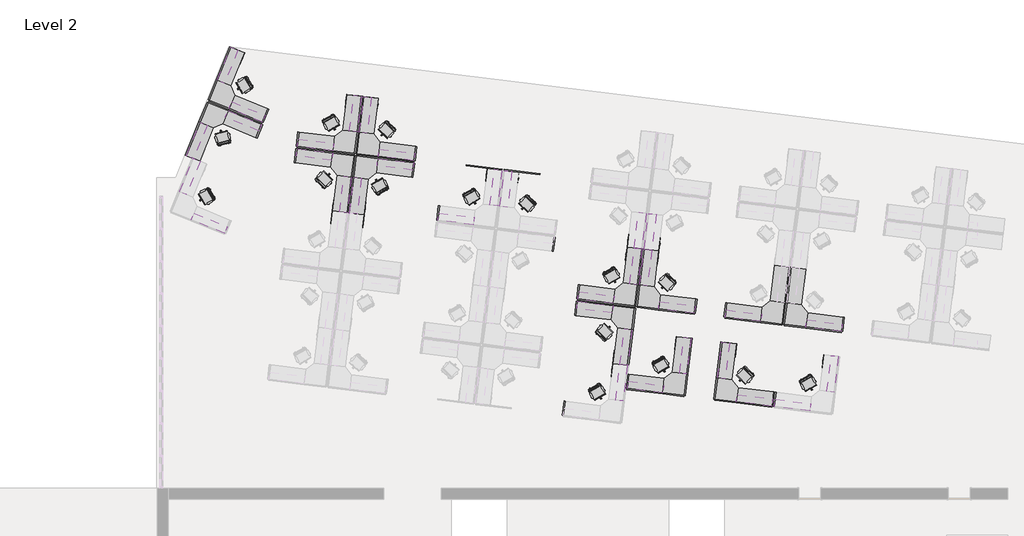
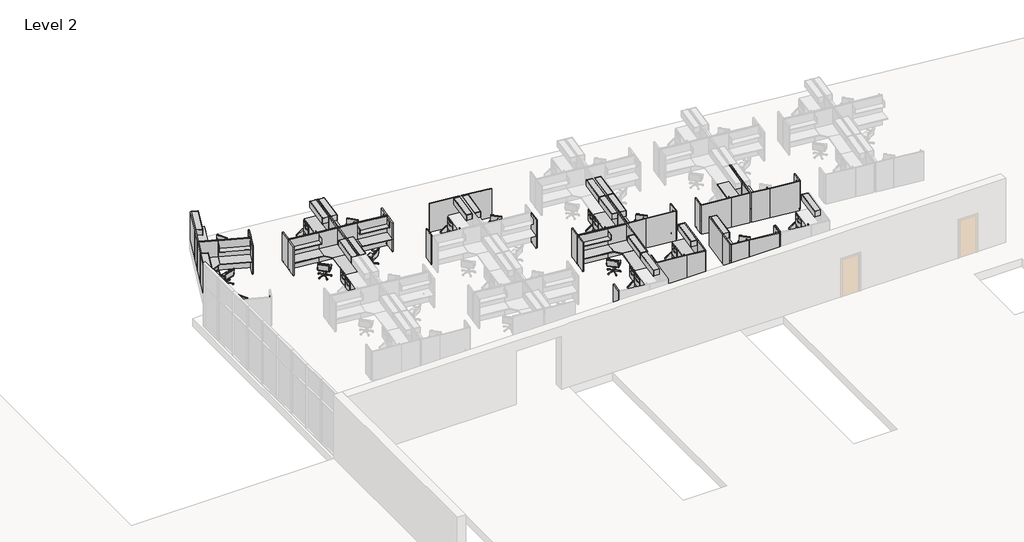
# One storey, part 6 of 7: 100 furniture elements.
"""IFC4 building model written with IfcOpenShell, lengths in millimetres."""

from ifc_helpers import new_model, si_unit, origin, place, context, project, spatial, transform, mapped, element, save
from components import chair_task_arms_chair_task_arms_3b363349, chair_task_arms_chair_task_arms_8395c10b, furniture_665347ce, furniture_3ceed070, furniture_00cef8f1, furniture_8d825890, overhead_shelving_module_overhead_shelving_module_3ee17988, overhead_shelving_module_overhead_shelving_module_7dcda1b9, overhead_storage_module_overhead_storage_module_326dc690, overhead_storage_module_overhead_storage_module_bea9f75f, furniture_0333d240, furniture_4718bb14, furniture_45e3acac, furniture_7b33082a

model = new_model("IFC4")

# Units and contexts
model_context = context("Model", 3, world=origin())
ifc_project = project(units=[si_unit("LENGTHUNIT", "METRE", prefix="MILLI")], contexts=[model_context])

# Site, building, storey
site = spatial("IfcSite", under=ifc_project)
building = spatial("IfcBuilding", under=site)
storey = spatial("IfcBuildingStorey", under=building, Name="Level 2", Elevation=3657.6)

# Furniture
placement = place(None, origin())
chair_task_arms_chair_task_arms_shape = chair_task_arms_chair_task_arms_3b363349(model_context)
element("IfcFurniture", 1, ObjectType="Chair-Task Arms : Chair-Task Arms", at=placement, inside=storey, context=model_context, shape_type="MappedRepresentation", body=[
    mapped(chair_task_arms_chair_task_arms_shape, transform((-23352.4193491, 11903.0432182, 3657.6), x_axis=(-0.7193398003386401, 0.6946583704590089, 0.0), y_axis=(-0.6946583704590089, -0.7193398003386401, 0.0), z_axis=(0.0, 0.0, 1.0))),
])
element("IfcFurniture", 2, ObjectType="Chair-Task Arms : Chair-Task Arms", at=placement, inside=storey, context=model_context, shape_type="MappedRepresentation", body=[
    mapped(chair_task_arms_chair_task_arms_shape, transform((-17391.147875, 8765.5606586, 3657.6), x_axis=(-0.7193398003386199, 0.6946583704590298, 0.0), y_axis=(-0.6946583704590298, -0.7193398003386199, 0.0), z_axis=(0.0, 0.0, 1.0))),
])
element("IfcFurniture", 3, ObjectType="Chair-Task Arms : Chair-Task Arms", at=placement, inside=storey, context=model_context, shape_type="MappedRepresentation", body=[
    mapped(chair_task_arms_chair_task_arms_shape, transform((-14358.0359457, 3469.8400502, 3657.6), x_axis=(0.7193398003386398, -0.6946583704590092, 0.0), y_axis=(0.6946583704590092, 0.7193398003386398, 0.0), z_axis=(0.0, 0.0, 1.0))),
])
element("IfcFurniture", 4, ObjectType="Chair-Task Arms : Chair-Task Arms", at=placement, inside=storey, context=model_context, shape_type="MappedRepresentation", body=[
    mapped(chair_task_arms_chair_task_arms_shape, transform((-11454.6402515, 5426.3927209, 3657.6), x_axis=(-0.7193398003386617, 0.6946583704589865, 0.0), y_axis=(-0.6946583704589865, -0.7193398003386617, 0.0), z_axis=(0.0, 0.0, 1.0))),
])
element("IfcFurniture", 5, ObjectType="Chair-Task Arms : Chair-Task Arms", at=placement, inside=storey, context=model_context, shape_type="MappedRepresentation", body=[
    mapped(chair_task_arms_chair_task_arms_shape, transform((-26255.8150433, 9946.4905474, 3657.6), x_axis=(0.7193398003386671, -0.6946583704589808, 0.0), y_axis=(0.6946583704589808, 0.7193398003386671, 0.0), z_axis=(0.0, 0.0, 1.0))),
])
element("IfcFurniture", 6, ObjectType="Chair-Task Arms : Chair-Task Arms", at=placement, inside=storey, context=model_context, shape_type="MappedRepresentation", body=[
    mapped(chair_task_arms_chair_task_arms_shape, transform((-29421.3744907, 13765.940724, 3657.6), x_axis=(-0.5113844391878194, 0.8593520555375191, 0.0), y_axis=(-0.8593520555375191, -0.5113844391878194, 0.0), z_axis=(0.0, 0.0, 1.0))),
])
element("IfcFurniture", 7, ObjectType="Chair-Task Arms : Chair-Task Arms", at=placement, inside=storey, context=model_context, shape_type="MappedRepresentation", body=[
    mapped(chair_task_arms_chair_task_arms_shape, transform((-31023.8319386, 9042.6474103, 3657.6), x_axis=(-0.5113844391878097, 0.8593520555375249, 0.0), y_axis=(-0.8593520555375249, -0.5113844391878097, 0.0), z_axis=(0.0, 0.0, 1.0))),
])
element("IfcFurniture", 8, ObjectType="Chair-Task Arms : Chair-Task Arms", at=placement, inside=storey, context=model_context, shape_type="MappedRepresentation", body=[
    mapped(chair_task_arms_chair_task_arms_shape, transform((-8151.4574, 1482.5085649, 3657.6), x_axis=(-0.7193398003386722, 0.6946583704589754, 0.0), y_axis=(-0.6946583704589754, -0.7193398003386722, 0.0), z_axis=(0.0, 0.0, 1.0))),
])
chair_task_arms_chair_task_arms_2_shape = chair_task_arms_chair_task_arms_8395c10b(model_context)
element("IfcFurniture", 9, ObjectType="Chair-Task Arms : Chair-Task Arms", at=placement, inside=storey, context=model_context, shape_type="MappedRepresentation", body=[
    mapped(chair_task_arms_chair_task_arms_2_shape, transform((-20014.7554735, 9087.6991655, 3657.6), x_axis=(0.866025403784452, 0.4999999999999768, 0.0), y_axis=(-0.4999999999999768, 0.866025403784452, 0.0), z_axis=(0.0, 0.0, 1.0))),
])
element("IfcFurniture", 10, ObjectType="Chair-Task Arms : Chair-Task Arms", at=placement, inside=storey, context=model_context, shape_type="MappedRepresentation", body=[
    mapped(chair_task_arms_chair_task_arms_2_shape, transform((-23632.2074448, 9624.3520405, 3657.6), x_axis=(-0.8660254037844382, -0.5000000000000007, 0.0), y_axis=(0.5000000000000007, -0.8660254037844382, 0.0), z_axis=(0.0, 0.0, 1.0))),
])
element("IfcFurniture", 11, ObjectType="Chair-Task Arms : Chair-Task Arms", at=placement, inside=storey, context=model_context, shape_type="MappedRepresentation", body=[
    mapped(chair_task_arms_chair_task_arms_2_shape, transform((-14078.24785, 5748.5312279, 3657.6), x_axis=(0.8660254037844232, 0.5000000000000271, 0.0), y_axis=(-0.5000000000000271, 0.8660254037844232, 0.0), z_axis=(0.0, 0.0, 1.0))),
])
element("IfcFurniture", 12, ObjectType="Chair-Task Arms : Chair-Task Arms", at=placement, inside=storey, context=model_context, shape_type="MappedRepresentation", body=[
    mapped(chair_task_arms_chair_task_arms_2_shape, transform((-14684.9621892, 807.2394665, 3657.6), x_axis=(0.8660254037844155, 0.5000000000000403, 0.0), y_axis=(-0.5000000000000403, 0.8660254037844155, 0.0), z_axis=(0.0, 0.0, 1.0))),
])
element("IfcFurniture", 13, ObjectType="Chair-Task Arms : Chair-Task Arms", at=placement, inside=storey, context=model_context, shape_type="MappedRepresentation", body=[
    mapped(chair_task_arms_chair_task_arms_2_shape, transform((-25976.0269476, 12225.1817252, 3657.6), x_axis=(0.8660254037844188, 0.5000000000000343, 0.0), y_axis=(-0.5000000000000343, 0.8660254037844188, 0.0), z_axis=(0.0, 0.0, 1.0))),
])
element("IfcFurniture", 14, ObjectType="Chair-Task Arms : Chair-Task Arms", at=placement, inside=storey, context=model_context, shape_type="MappedRepresentation", body=[
    mapped(chair_task_arms_chair_task_arms_2_shape, transform((-30290.4515264, 11640.9889674, 3657.6), x_axis=(-0.9670188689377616, -0.2547047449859, 0.0), y_axis=(0.2547047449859, -0.9670188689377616, 0.0), z_axis=(0.0, 0.0, 1.0))),
])
element("IfcFurniture", 15, ObjectType="Chair-Task Arms : Chair-Task Arms", at=placement, inside=storey, context=model_context, shape_type="MappedRepresentation", body=[
    mapped(chair_task_arms_chair_task_arms_2_shape, transform((-11985.1772665, 1953.2301754, 3657.6), x_axis=(0.8660254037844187, 0.5000000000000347, 0.0), y_axis=(-0.5000000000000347, 0.8660254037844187, 0.0), z_axis=(0.0, 0.0, 1.0))),
])
element("IfcFurniture", 16, ObjectType="Chair-Task Arms : Chair-Task Arms", at=placement, inside=storey, context=model_context, shape_type="MappedRepresentation", body=[
    mapped(chair_task_arms_chair_task_arms_2_shape, transform((-5732.9305481, 1185.5508074, 3657.6), x_axis=(0.8660254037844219, 0.5000000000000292, 0.0), y_axis=(-0.5000000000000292, 0.8660254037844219, 0.0), z_axis=(0.0, 0.0, 1.0))),
])
furniture_shape = furniture_665347ce(model_context)
element("IfcFurniture", 17, ObjectType="Cube Panel : 24\" x 66\"", at=placement, inside=storey, context=model_context, shape_type="MappedRepresentation", body=[
    mapped(furniture_shape, transform((-22264.9239048, 10971.2636434, 3657.6), x_axis=(0.12186934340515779, 0.9925461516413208, 0.0), y_axis=(-0.9925461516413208, 0.12186934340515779, 0.0), z_axis=(0.0, 0.0, 1.0))),
])
element("IfcFurniture", 18, ObjectType="Cube Panel : 24\" x 66\"", at=placement, inside=storey, context=model_context, shape_type="MappedRepresentation", body=[
    mapped(furniture_shape, transform((-15445.53139, 4401.6196249, 3657.6), x_axis=(-0.12186934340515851, -0.9925461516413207, 0.0), y_axis=(0.9925461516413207, -0.12186934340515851, 0.0), z_axis=(0.0, 0.0, 1.0))),
])
element("IfcFurniture", 19, ObjectType="Cube Panel : 24\" x 66\"", at=placement, inside=storey, context=model_context, shape_type="MappedRepresentation", body=[
    mapped(furniture_shape, transform((-10367.1448072, 4494.6131461, 3657.6), x_axis=(0.12186934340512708, 0.9925461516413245, 0.0), y_axis=(-0.9925461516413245, 0.12186934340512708, 0.0), z_axis=(0.0, 0.0, 1.0))),
])
element("IfcFurniture", 20, ObjectType="Cube Panel : 24\" x 66\"", at=placement, inside=storey, context=model_context, shape_type="MappedRepresentation", body=[
    mapped(furniture_shape, transform((-4114.8980887, 3726.9337782, 3657.6), x_axis=(0.12186934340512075, 0.9925461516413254, 0.0), y_axis=(-0.9925461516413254, 0.12186934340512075, 0.0), z_axis=(0.0, 0.0, 1.0))),
])
element("IfcFurniture", 21, ObjectType="Cube Panel : 24\" x 66\"", at=placement, inside=storey, context=model_context, shape_type="MappedRepresentation", body=[
    mapped(furniture_shape, transform((-27343.3104877, 10878.2701222, 3657.6), x_axis=(-0.12186934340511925, -0.9925461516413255, 0.0), y_axis=(0.9925461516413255, -0.12186934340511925, 0.0), z_axis=(0.0, 0.0, 1.0))),
])
element("IfcFurniture", 22, ObjectType="Cube Panel : 24\" x 66\"", at=placement, inside=storey, context=model_context, shape_type="MappedRepresentation", body=[
    mapped(furniture_shape, transform((-28617.1338204, 12581.0118393, 3657.6), x_axis=(0.37855022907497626, 0.9255807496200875, 0.0), y_axis=(-0.9255807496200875, 0.37855022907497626, 0.0), z_axis=(0.0, 0.0, 1.0))),
])
element("IfcFurniture", 23, ObjectType="Cube Panel : 24\" x 66\"", at=placement, inside=storey, context=model_context, shape_type="MappedRepresentation", body=[
    mapped(furniture_shape, transform((-7063.9619556, 550.7289902, 3657.6), x_axis=(0.12186934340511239, 0.9925461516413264, 0.0), y_axis=(-0.9925461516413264, 0.12186934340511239, 0.0), z_axis=(0.0, 0.0, 1.0))),
])
furniture_2_shape = furniture_3ceed070(model_context)
element("IfcFurniture", 24, ObjectType="Cube Panel : 24\" x 66\"", at=placement, inside=storey, context=model_context, shape_type="MappedRepresentation", body=[
    mapped(furniture_2_shape, transform((-21295.3655365, 8446.6863856, 3657.6), x_axis=(0.12186934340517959, 0.9925461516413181, 0.0), y_axis=(-0.9925461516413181, 0.12186934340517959, 0.0), z_axis=(0.0, 0.0, 1.0))),
])
element("IfcFurniture", 25, ObjectType="Cube Panel : 24\" x 66\"", at=placement, inside=storey, context=model_context, shape_type="MappedRepresentation", body=[
    mapped(furniture_2_shape, transform((-22351.5973818, 10265.3648204, 3657.6), x_axis=(-0.12186934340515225, -0.9925461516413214, 0.0), y_axis=(0.9925461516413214, -0.12186934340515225, 0.0), z_axis=(0.0, 0.0, 1.0))),
])
element("IfcFurniture", 26, ObjectType="Cube Panel : 24\" x 66\"", at=placement, inside=storey, context=model_context, shape_type="MappedRepresentation", body=[
    mapped(furniture_2_shape, transform((-16390.3259077, 7127.8822607, 3657.6), x_axis=(-0.12186934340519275, -0.9925461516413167, 0.0), y_axis=(0.9925461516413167, -0.12186934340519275, 0.0), z_axis=(0.0, 0.0, 1.0))),
])
element("IfcFurniture", 27, ObjectType="Cube Panel : 24\" x 66\"", at=placement, inside=storey, context=model_context, shape_type="MappedRepresentation", body=[
    mapped(furniture_2_shape, transform((-15358.857913, 5107.518448, 3657.6), x_axis=(0.12186934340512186, 0.9925461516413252, 0.0), y_axis=(-0.9925461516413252, 0.12186934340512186, 0.0), z_axis=(0.0, 0.0, 1.0))),
])
element("IfcFurniture", 28, ObjectType="Cube Panel : 24\" x 66\"", at=placement, inside=storey, context=model_context, shape_type="MappedRepresentation", body=[
    mapped(furniture_2_shape, transform((-15965.5722522, 166.2266867, 3657.6), x_axis=(0.12186934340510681, 0.9925461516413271, 0.0), y_axis=(-0.9925461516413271, 0.12186934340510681, 0.0), z_axis=(0.0, 0.0, 1.0))),
])
element("IfcFurniture", 29, ObjectType="Cube Panel : 24\" x 66\"", at=placement, inside=storey, context=model_context, shape_type="MappedRepresentation", body=[
    mapped(furniture_2_shape, transform((-9106.6111946, 4339.83908, 3657.6), x_axis=(0.1218693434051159, 0.992546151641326, 0.0), y_axis=(-0.992546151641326, 0.1218693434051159, 0.0), z_axis=(0.0, 0.0, 1.0))),
])
element("IfcFurniture", 30, ObjectType="Cube Panel : 24\" x 66\"", at=placement, inside=storey, context=model_context, shape_type="MappedRepresentation", body=[
    mapped(furniture_2_shape, transform((-27256.6370106, 11584.1689453, 3657.6), x_axis=(0.12186934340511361, 0.9925461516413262, 0.0), y_axis=(-0.9925461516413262, 0.12186934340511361, 0.0), z_axis=(0.0, 0.0, 1.0))),
])
element("IfcFurniture", 31, ObjectType="Cube Panel : 24\" x 66\"", at=placement, inside=storey, context=model_context, shape_type="MappedRepresentation", body=[
    mapped(furniture_2_shape, transform((-28886.3587433, 11922.7388102, 3657.6), x_axis=(-0.37855022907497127, -0.9255807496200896, 0.0), y_axis=(0.9255807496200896, -0.37855022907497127, 0.0), z_axis=(0.0, 0.0, 1.0))),
])
element("IfcFurniture", 32, ObjectType="Cube Panel : 24\" x 66\"", at=placement, inside=storey, context=model_context, shape_type="MappedRepresentation", body=[
    mapped(furniture_2_shape, transform((-13265.7873296, 1312.2173955, 3657.6), x_axis=(0.12186934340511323, 0.9925461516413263, 0.0), y_axis=(-0.9925461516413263, 0.12186934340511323, 0.0), z_axis=(0.0, 0.0, 1.0))),
])
element("IfcFurniture", 33, ObjectType="Cube Panel : 24\" x 66\"", at=placement, inside=storey, context=model_context, shape_type="MappedRepresentation", body=[
    mapped(furniture_2_shape, transform((-7013.5406111, 544.5380275, 3657.6), x_axis=(0.12186934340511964, 0.9925461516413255, 0.0), y_axis=(-0.9925461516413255, 0.12186934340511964, 0.0), z_axis=(0.0, 0.0, 1.0))),
])
furniture_3_shape = furniture_00cef8f1(model_context)
element("IfcFurniture", 34, ObjectType="Cube Panel : 60\" x 66\"", at=placement, inside=storey, context=model_context, shape_type="MappedRepresentation", body=[
    mapped(furniture_3_shape, transform((-17729.6515591, 10184.0854738, 3657.6), x_axis=(0.9925461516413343, -0.12186934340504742, 0.0), y_axis=(0.12186934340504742, 0.9925461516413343, 0.0), z_axis=(0.0, 0.0, 1.0))),
])
furniture_4_shape = furniture_8d825890(model_context)
element("IfcFurniture", 35, ObjectType="Cube Panel : 60\" x 66\"", at=placement, inside=storey, context=model_context, shape_type="MappedRepresentation", body=[
    mapped(furniture_4_shape, transform((-19343.1345832, 10382.1962784, 3657.6), x_axis=(-0.9925461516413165, 0.12186934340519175, 0.0), y_axis=(-0.12186934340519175, -0.9925461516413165, 0.0), z_axis=(0.0, 0.0, 1.0))),
])
overhead_shelving_module_overhead_shelving_module_shape = overhead_shelving_module_overhead_shelving_module_3ee17988(model_context)
element("IfcFurniture", 36, ObjectType="Overhead Shelving Module : Overhead Shelving Module", at=placement, inside=storey, context=model_context, shape_type="MappedRepresentation", body=[
    mapped(overhead_shelving_module_overhead_shelving_module_shape, transform((-23211.4257966, 11018.3276546, 3505.2), x_axis=(-0.9925461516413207, 0.1218693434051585, 0.0), y_axis=(-0.1218693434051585, -0.9925461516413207, 0.0), z_axis=(0.0, 0.0, 1.0))),
])
element("IfcFurniture", 37, ObjectType="Overhead Shelving Module : Overhead Shelving Module", at=placement, inside=storey, context=model_context, shape_type="MappedRepresentation", body=[
    mapped(overhead_shelving_module_overhead_shelving_module_shape, transform((-14499.0294982, 4354.5556138, 3505.2), x_axis=(0.9925461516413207, -0.12186934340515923, 0.0), y_axis=(0.12186934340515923, 0.9925461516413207, 0.0), z_axis=(0.0, 0.0, 1.0))),
])
element("IfcFurniture", 38, ObjectType="Overhead Shelving Module : Overhead Shelving Module", at=placement, inside=storey, context=model_context, shape_type="MappedRepresentation", body=[
    mapped(overhead_shelving_module_overhead_shelving_module_shape, transform((-11313.646699, 4541.6771573, 3505.2), x_axis=(-0.9925461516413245, 0.1218693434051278, 0.0), y_axis=(-0.1218693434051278, -0.9925461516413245, 0.0), z_axis=(0.0, 0.0, 1.0))),
])
element("IfcFurniture", 39, ObjectType="Overhead Shelving Module : Overhead Shelving Module", at=placement, inside=storey, context=model_context, shape_type="MappedRepresentation", body=[
    mapped(overhead_shelving_module_overhead_shelving_module_shape, transform((-5061.3999806, 3773.9977893, 3505.2), x_axis=(-0.9925461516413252, 0.12186934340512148, 0.0), y_axis=(-0.12186934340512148, -0.9925461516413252, 0.0), z_axis=(0.0, 0.0, 1.0))),
])
element("IfcFurniture", 40, ObjectType="Overhead Shelving Module : Overhead Shelving Module", at=placement, inside=storey, context=model_context, shape_type="MappedRepresentation", body=[
    mapped(overhead_shelving_module_overhead_shelving_module_shape, transform((-26396.8085958, 10831.2061111, 3505.2), x_axis=(0.9925461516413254, -0.12186934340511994, 0.0), y_axis=(0.12186934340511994, 0.9925461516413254, 0.0), z_axis=(0.0, 0.0, 1.0))),
])
element("IfcFurniture", 41, ObjectType="Overhead Shelving Module : Overhead Shelving Module", at=placement, inside=storey, context=model_context, shape_type="MappedRepresentation", body=[
    mapped(overhead_shelving_module_overhead_shelving_module_shape, transform((-29517.9588301, 12875.2823856, 3505.2), x_axis=(-0.9255807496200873, 0.378550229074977, 0.0), y_axis=(-0.378550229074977, -0.9255807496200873, 0.0), z_axis=(0.0, 0.0, 1.0))),
])
element("IfcFurniture", 42, ObjectType="Overhead Shelving Module : Overhead Shelving Module", at=placement, inside=storey, context=model_context, shape_type="MappedRepresentation", body=[
    mapped(overhead_shelving_module_overhead_shelving_module_shape, transform((-31120.416278, 8151.9890719, 3505.2), x_axis=(-0.9255807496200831, 0.37855022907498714, 0.0), y_axis=(-0.37855022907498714, -0.9255807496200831, 0.0), z_axis=(0.0, 0.0, 1.0))),
])
element("IfcFurniture", 43, ObjectType="Overhead Shelving Module : Overhead Shelving Module", at=placement, inside=storey, context=model_context, shape_type="MappedRepresentation", body=[
    mapped(overhead_shelving_module_overhead_shelving_module_shape, transform((-8010.4638475, 597.7930013, 3505.2), x_axis=(-0.9925461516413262, 0.12186934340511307, 0.0), y_axis=(-0.12186934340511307, -0.9925461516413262, 0.0), z_axis=(0.0, 0.0, 1.0))),
])
overhead_shelving_module_overhead_shelving_module_2_shape = overhead_shelving_module_overhead_shelving_module_7dcda1b9(model_context)
element("IfcFurniture", 44, ObjectType="Overhead Shelving Module : Overhead Shelving Module", at=placement, inside=storey, context=model_context, shape_type="MappedRepresentation", body=[
    mapped(overhead_shelving_module_overhead_shelving_module_2_shape, transform((-20365.5929812, 8263.3728626, 3505.2), x_axis=(0.9925461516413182, -0.12186934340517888, 0.0), y_axis=(0.12186934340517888, 0.9925461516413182, 0.0), z_axis=(0.0, 0.0, 1.0))),
])
element("IfcFurniture", 45, ObjectType="Overhead Shelving Module : Overhead Shelving Module", at=placement, inside=storey, context=model_context, shape_type="MappedRepresentation", body=[
    mapped(overhead_shelving_module_overhead_shelving_module_2_shape, transform((-23281.3699372, 10448.6783434, 3505.2), x_axis=(-0.9925461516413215, 0.12186934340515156, 0.0), y_axis=(-0.12186934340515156, -0.9925461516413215, 0.0), z_axis=(0.0, 0.0, 1.0))),
])
element("IfcFurniture", 46, ObjectType="Overhead Shelving Module : Overhead Shelving Module", at=placement, inside=storey, context=model_context, shape_type="MappedRepresentation", body=[
    mapped(overhead_shelving_module_overhead_shelving_module_2_shape, transform((-14429.0853576, 4924.204925, 3505.2), x_axis=(0.9925461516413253, -0.12186934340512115, 0.0), y_axis=(0.12186934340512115, 0.9925461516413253, 0.0), z_axis=(0.0, 0.0, 1.0))),
])
element("IfcFurniture", 47, ObjectType="Overhead Shelving Module : Overhead Shelving Module", at=placement, inside=storey, context=model_context, shape_type="MappedRepresentation", body=[
    mapped(overhead_shelving_module_overhead_shelving_module_2_shape, transform((-8176.8386392, 4156.525557, 3505.2), x_axis=(0.9925461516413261, -0.12186934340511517, 0.0), y_axis=(0.12186934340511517, 0.9925461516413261, 0.0), z_axis=(0.0, 0.0, 1.0))),
])
element("IfcFurniture", 48, ObjectType="Overhead Shelving Module : Overhead Shelving Module", at=placement, inside=storey, context=model_context, shape_type="MappedRepresentation", body=[
    mapped(overhead_shelving_module_overhead_shelving_module_2_shape, transform((-26326.8644553, 11400.8554223, 3505.2), x_axis=(0.9925461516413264, -0.12186934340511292, 0.0), y_axis=(0.12186934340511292, 0.9925461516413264, 0.0), z_axis=(0.0, 0.0, 1.0))),
])
element("IfcFurniture", 49, ObjectType="Overhead Shelving Module : Overhead Shelving Module", at=placement, inside=storey, context=model_context, shape_type="MappedRepresentation", body=[
    mapped(overhead_shelving_module_overhead_shelving_module_2_shape, transform((-29735.2191327, 12344.0663453, 3505.2), x_axis=(-0.9255807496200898, 0.3785502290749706, 0.0), y_axis=(-0.3785502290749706, -0.9255807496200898, 0.0), z_axis=(0.0, 0.0, 1.0))),
])
element("IfcFurniture", 50, ObjectType="Overhead Shelving Module : Overhead Shelving Module", at=placement, inside=storey, context=model_context, shape_type="MappedRepresentation", body=[
    mapped(overhead_shelving_module_overhead_shelving_module_2_shape, transform((-12336.0147742, 1128.9038725, 3505.2), x_axis=(0.9925461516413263, -0.1218693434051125, 0.0), y_axis=(0.1218693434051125, 0.9925461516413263, 0.0), z_axis=(0.0, 0.0, 1.0))),
])
element("IfcFurniture", 51, ObjectType="Overhead Shelving Module : Overhead Shelving Module", at=placement, inside=storey, context=model_context, shape_type="MappedRepresentation", body=[
    mapped(overhead_shelving_module_overhead_shelving_module_2_shape, transform((-6083.7680558, 361.2245045, 3505.2), x_axis=(0.9925461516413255, -0.12186934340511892, 0.0), y_axis=(0.12186934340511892, 0.9925461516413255, 0.0), z_axis=(0.0, 0.0, 1.0))),
])
overhead_storage_module_overhead_storage_module_shape = overhead_storage_module_overhead_storage_module_326dc690(model_context)
element("IfcFurniture", 52, ObjectType="Overhead Storage Module : Overhead Storage Module", at=placement, inside=storey, context=model_context, shape_type="MappedRepresentation", body=[
    mapped(overhead_storage_module_overhead_storage_module_shape, transform((-24289.5709646, 12760.7269095, 3657.6), x_axis=(0.12186934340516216, 0.9925461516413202, 0.0), y_axis=(-0.9925461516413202, 0.12186934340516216, 0.0), z_axis=(0.0, 0.0, 1.0))),
])
element("IfcFurniture", 53, ObjectType="Overhead Storage Module : Overhead Storage Module", at=placement, inside=storey, context=model_context, shape_type="MappedRepresentation", body=[
    mapped(overhead_storage_module_overhead_storage_module_shape, transform((-18328.2994905, 9623.2443498, 3657.6), x_axis=(0.12186934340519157, 0.9925461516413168, 0.0), y_axis=(-0.9925461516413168, 0.12186934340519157, 0.0), z_axis=(0.0, 0.0, 1.0))),
])
element("IfcFurniture", 54, ObjectType="Overhead Storage Module : Overhead Storage Module", at=placement, inside=storey, context=model_context, shape_type="MappedRepresentation", body=[
    mapped(overhead_storage_module_overhead_storage_module_shape, transform((-12814.169991, 7553.4481202, 3657.6), x_axis=(-0.12186934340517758, -0.9925461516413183, 0.0), y_axis=(0.9925461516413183, -0.12186934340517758, 0.0), z_axis=(0.0, 0.0, 1.0))),
])
element("IfcFurniture", 55, ObjectType="Overhead Storage Module : Overhead Storage Module", at=placement, inside=storey, context=model_context, shape_type="MappedRepresentation", body=[
    mapped(overhead_storage_module_overhead_storage_module_shape, transform((-13420.8843302, 2612.1563589, 3657.6), x_axis=(-0.12186934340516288, -0.9925461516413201, 0.0), y_axis=(0.9925461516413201, -0.12186934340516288, 0.0), z_axis=(0.0, 0.0, 1.0))),
])
element("IfcFurniture", 56, ObjectType="Overhead Storage Module : Overhead Storage Module", at=placement, inside=storey, context=model_context, shape_type="MappedRepresentation", body=[
    mapped(overhead_storage_module_overhead_storage_module_shape, transform((-12391.791867, 6284.0764122, 3657.6), x_axis=(0.12186934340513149, 0.9925461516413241, 0.0), y_axis=(-0.9925461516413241, 0.12186934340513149, 0.0), z_axis=(0.0, 0.0, 1.0))),
])
element("IfcFurniture", 57, ObjectType="Overhead Storage Module : Overhead Storage Module", at=placement, inside=storey, context=model_context, shape_type="MappedRepresentation", body=[
    mapped(overhead_storage_module_overhead_storage_module_shape, transform((-25318.6634278, 9088.8068562, 3657.6), x_axis=(-0.12186934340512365, -0.992546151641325, 0.0), y_axis=(0.992546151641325, -0.12186934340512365, 0.0), z_axis=(0.0, 0.0, 1.0))),
])
element("IfcFurniture", 58, ObjectType="Overhead Storage Module : Overhead Storage Module", at=placement, inside=storey, context=model_context, shape_type="MappedRepresentation", body=[
    mapped(overhead_storage_module_overhead_storage_module_shape, transform((-30100.0430687, 14839.8510675, 3657.6), x_axis=(0.3785502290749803, 0.9255807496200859, 0.0), y_axis=(-0.9255807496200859, 0.3785502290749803, 0.0), z_axis=(0.0, 0.0, 1.0))),
])
element("IfcFurniture", 59, ObjectType="Overhead Storage Module : Overhead Storage Module", at=placement, inside=storey, context=model_context, shape_type="MappedRepresentation", body=[
    mapped(overhead_storage_module_overhead_storage_module_shape, transform((-31702.5005167, 10116.5577538, 3657.6), x_axis=(0.37855022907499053, 0.9255807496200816, 0.0), y_axis=(-0.9255807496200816, 0.37855022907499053, 0.0), z_axis=(0.0, 0.0, 1.0))),
])
element("IfcFurniture", 60, ObjectType="Overhead Storage Module : Overhead Storage Module", at=placement, inside=storey, context=model_context, shape_type="MappedRepresentation", body=[
    mapped(overhead_storage_module_overhead_storage_module_shape, transform((-9088.6090155, 2340.1922562, 3657.6), x_axis=(0.12186934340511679, 0.9925461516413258, 0.0), y_axis=(-0.9925461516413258, 0.12186934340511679, 0.0), z_axis=(0.0, 0.0, 1.0))),
])
overhead_storage_module_overhead_storage_module_2_shape = overhead_storage_module_overhead_storage_module_bea9f75f(model_context)
element("IfcFurniture", 61, ObjectType="Overhead Storage Module : Overhead Storage Module", at=placement, inside=storey, context=model_context, shape_type="MappedRepresentation", body=[
    mapped(overhead_storage_module_overhead_storage_module_2_shape, transform((-18897.9488017, 9693.1884904, 3657.6), x_axis=(0.1218693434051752, 0.9925461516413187, 0.0), y_axis=(-0.9925461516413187, 0.1218693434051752, 0.0), z_axis=(0.0, 0.0, 1.0))),
])
element("IfcFurniture", 62, ObjectType="Overhead Storage Module : Overhead Storage Module", at=placement, inside=storey, context=model_context, shape_type="MappedRepresentation", body=[
    mapped(overhead_storage_module_overhead_storage_module_2_shape, transform((-24749.0141166, 9018.8627156, 3657.6), x_axis=(-0.12186934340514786, -0.992546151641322, 0.0), y_axis=(0.992546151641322, -0.12186934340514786, 0.0), z_axis=(0.0, 0.0, 1.0))),
])
element("IfcFurniture", 63, ObjectType="Overhead Storage Module : Overhead Storage Module", at=placement, inside=storey, context=model_context, shape_type="MappedRepresentation", body=[
    mapped(overhead_storage_module_overhead_storage_module_2_shape, transform((-12961.4411782, 6354.0205527, 3657.6), x_axis=(0.12186934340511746, 0.9925461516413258, 0.0), y_axis=(-0.9925461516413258, 0.12186934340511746, 0.0), z_axis=(0.0, 0.0, 1.0))),
])
element("IfcFurniture", 64, ObjectType="Overhead Storage Module : Overhead Storage Module", at=placement, inside=storey, context=model_context, shape_type="MappedRepresentation", body=[
    mapped(overhead_storage_module_overhead_storage_module_2_shape, transform((-13568.1555174, 1412.7287914, 3657.6), x_axis=(0.1218693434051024, 0.9925461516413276, 0.0), y_axis=(-0.9925461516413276, 0.1218693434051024, 0.0), z_axis=(0.0, 0.0, 1.0))),
])
element("IfcFurniture", 65, ObjectType="Overhead Storage Module : Overhead Storage Module", at=placement, inside=storey, context=model_context, shape_type="MappedRepresentation", body=[
    mapped(overhead_storage_module_overhead_storage_module_2_shape, transform((-12244.5206798, 7483.5039797, 3657.6), x_axis=(-0.12186934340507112, -0.9925461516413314, 0.0), y_axis=(0.9925461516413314, -0.12186934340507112, 0.0), z_axis=(0.0, 0.0, 1.0))),
])
element("IfcFurniture", 66, ObjectType="Overhead Storage Module : Overhead Storage Module", at=placement, inside=storey, context=model_context, shape_type="MappedRepresentation", body=[
    mapped(overhead_storage_module_overhead_storage_module_2_shape, transform((-24859.2202758, 12830.67105, 3657.6), x_axis=(0.12186934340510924, 0.9925461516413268, 0.0), y_axis=(-0.9925461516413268, 0.12186934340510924, 0.0), z_axis=(0.0, 0.0, 1.0))),
])
element("IfcFurniture", 67, ObjectType="Overhead Storage Module : Overhead Storage Module", at=placement, inside=storey, context=model_context, shape_type="MappedRepresentation", body=[
    mapped(overhead_storage_module_overhead_storage_module_2_shape, transform((-31527.1641607, 11350.4440915, 3657.6), x_axis=(-0.3785502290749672, -0.9255807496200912, 0.0), y_axis=(0.9255807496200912, -0.3785502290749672, 0.0), z_axis=(0.0, 0.0, 1.0))),
])
element("IfcFurniture", 68, ObjectType="Overhead Storage Module : Overhead Storage Module", at=placement, inside=storey, context=model_context, shape_type="MappedRepresentation", body=[
    mapped(overhead_storage_module_overhead_storage_module_2_shape, transform((-10868.3705948, 2558.7195002, 3657.6), x_axis=(0.12186934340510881, 0.9925461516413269, 0.0), y_axis=(-0.9925461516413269, 0.12186934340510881, 0.0), z_axis=(0.0, 0.0, 1.0))),
])
element("IfcFurniture", 69, ObjectType="Overhead Storage Module : Overhead Storage Module", at=placement, inside=storey, context=model_context, shape_type="MappedRepresentation", body=[
    mapped(overhead_storage_module_overhead_storage_module_2_shape, transform((-4616.1238763, 1791.0401323, 3657.6), x_axis=(0.12186934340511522, 0.9925461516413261, 0.0), y_axis=(-0.9925461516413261, 0.12186934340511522, 0.0), z_axis=(0.0, 0.0, 1.0))),
])
furniture_5_shape = furniture_0333d240(model_context)
element("IfcFurniture", 70, ObjectType="Storage Pedestal : 20\" x 30\" x 36\"", at=placement, inside=storey, context=model_context, shape_type="MappedRepresentation", body=[
    mapped(furniture_5_shape, transform((-25017.946444, 13358.791477, 3657.6), x_axis=(0.12186934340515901, 0.9925461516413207, 0.0), y_axis=(-0.9925461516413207, 0.12186934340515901, 0.0), z_axis=(0.0, 0.0, 1.0))),
])
element("IfcFurniture", 71, ObjectType="Storage Pedestal : 20\" x 30\" x 36\"", at=placement, inside=storey, context=model_context, shape_type="MappedRepresentation", body=[
    mapped(furniture_5_shape, transform((-19056.6749698, 10221.3089174, 3657.6), x_axis=(0.12186934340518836, 0.9925461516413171, 0.0), y_axis=(-0.9925461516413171, 0.12186934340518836, 0.0), z_axis=(0.0, 0.0, 1.0))),
])
element("IfcFurniture", 72, ObjectType="Storage Pedestal : 20\" x 30\" x 36\"", at=placement, inside=storey, context=model_context, shape_type="MappedRepresentation", body=[
    mapped(furniture_5_shape, transform((-12085.7945117, 6955.3835527, 3657.6), x_axis=(-0.12186934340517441, -0.9925461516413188, 0.0), y_axis=(0.9925461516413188, -0.12186934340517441, 0.0), z_axis=(0.0, 0.0, 1.0))),
])
element("IfcFurniture", 73, ObjectType="Storage Pedestal : 20\" x 30\" x 36\"", at=placement, inside=storey, context=model_context, shape_type="MappedRepresentation", body=[
    mapped(furniture_5_shape, transform((-25624.6607832, 8417.4997157, 3657.6), x_axis=(0.12186934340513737, 0.9925461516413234, 0.0), y_axis=(-0.9925461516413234, 0.12186934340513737, 0.0), z_axis=(0.0, 0.0, 1.0))),
])
element("IfcFurniture", 74, ObjectType="Storage Pedestal : 20\" x 30\" x 36\"", at=placement, inside=storey, context=model_context, shape_type="MappedRepresentation", body=[
    mapped(furniture_5_shape, transform((-12692.5088509, 2014.0917913, 3657.6), x_axis=(-0.12186934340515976, -0.9925461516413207, 0.0), y_axis=(0.9925461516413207, -0.12186934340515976, 0.0), z_axis=(0.0, 0.0, 1.0))),
])
element("IfcFurniture", 75, ObjectType="Storage Pedestal : 20\" x 30\" x 36\"", at=placement, inside=storey, context=model_context, shape_type="MappedRepresentation", body=[
    mapped(furniture_5_shape, transform((-13120.1673463, 6882.1409797, 3657.6), x_axis=(0.12186934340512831, 0.9925461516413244, 0.0), y_axis=(-0.9925461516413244, 0.12186934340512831, 0.0), z_axis=(0.0, 0.0, 1.0))),
])
element("IfcFurniture", 76, ObjectType="Storage Pedestal : 20\" x 30\" x 36\"", at=placement, inside=storey, context=model_context, shape_type="MappedRepresentation", body=[
    mapped(furniture_5_shape, transform((-24590.2879485, 8490.7422886, 3657.6), x_axis=(-0.12186934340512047, -0.9925461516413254, 0.0), y_axis=(0.9925461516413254, -0.12186934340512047, 0.0), z_axis=(0.0, 0.0, 1.0))),
])
element("IfcFurniture", 77, ObjectType="Storage Pedestal : 20\" x 30\" x 36\"", at=placement, inside=storey, context=model_context, shape_type="MappedRepresentation", body=[
    mapped(furniture_5_shape, transform((-30645.5425477, 15608.3836851, 3657.6), x_axis=(0.37855022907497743, 0.9255807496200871, 0.0), y_axis=(-0.9255807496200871, 0.37855022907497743, 0.0), z_axis=(0.0, 0.0, 1.0))),
])
element("IfcFurniture", 78, ObjectType="Storage Pedestal : 20\" x 30\" x 36\"", at=placement, inside=storey, context=model_context, shape_type="MappedRepresentation", body=[
    mapped(furniture_5_shape, transform((-9816.9844948, 2938.2568238, 3657.6), x_axis=(0.12186934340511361, 0.9925461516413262, 0.0), y_axis=(-0.9925461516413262, 0.12186934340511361, 0.0), z_axis=(0.0, 0.0, 1.0))),
])
furniture_6_shape = furniture_4718bb14(model_context)
element("IfcFurniture", 79, ObjectType="Storage Pedestal : 20\" x 30\" x 36\"", at=placement, inside=storey, context=model_context, shape_type="MappedRepresentation", body=[
    mapped(furniture_6_shape, transform((-18046.5242731, 10097.2780076, 3657.6), x_axis=(0.1218693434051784, 0.9925461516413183, 0.0), y_axis=(-0.9925461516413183, 0.1218693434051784, 0.0), z_axis=(0.0, 0.0, 1.0))),
])
element("IfcFurniture", 80, ObjectType="Storage Pedestal : 20\" x 30\" x 36\"", at=placement, inside=storey, context=model_context, shape_type="MappedRepresentation", body=[
    mapped(furniture_6_shape, transform((-25600.4386452, 8614.7731984, 3657.6), x_axis=(-0.12186934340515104, -0.9925461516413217, 0.0), y_axis=(0.9925461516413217, -0.12186934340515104, 0.0), z_axis=(0.0, 0.0, 1.0))),
])
element("IfcFurniture", 81, ObjectType="Storage Pedestal : 20\" x 30\" x 36\"", at=placement, inside=storey, context=model_context, shape_type="MappedRepresentation", body=[
    mapped(furniture_6_shape, transform((-12110.0166496, 6758.11007, 3657.6), x_axis=(0.12186934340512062, 0.9925461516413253, 0.0), y_axis=(-0.9925461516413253, 0.12186934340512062, 0.0), z_axis=(0.0, 0.0, 1.0))),
])
element("IfcFurniture", 82, ObjectType="Storage Pedestal : 20\" x 30\" x 36\"", at=placement, inside=storey, context=model_context, shape_type="MappedRepresentation", body=[
    mapped(furniture_6_shape, transform((-12716.7309888, 1816.8183086, 3657.6), x_axis=(0.12186934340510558, 0.9925461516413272, 0.0), y_axis=(-0.9925461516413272, 0.12186934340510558, 0.0), z_axis=(0.0, 0.0, 1.0))),
])
element("IfcFurniture", 83, ObjectType="Storage Pedestal : 20\" x 30\" x 36\"", at=placement, inside=storey, context=model_context, shape_type="MappedRepresentation", body=[
    mapped(furniture_6_shape, transform((-13095.9452084, 7079.4144624, 3657.6), x_axis=(-0.1218693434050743, -0.9925461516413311, 0.0), y_axis=(0.9925461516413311, -0.1218693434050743, 0.0), z_axis=(0.0, 0.0, 1.0))),
])
element("IfcFurniture", 84, ObjectType="Storage Pedestal : 20\" x 30\" x 36\"", at=placement, inside=storey, context=model_context, shape_type="MappedRepresentation", body=[
    mapped(furniture_6_shape, transform((-24007.7957472, 13234.7605673, 3657.6), x_axis=(0.1218693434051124, 0.9925461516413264, 0.0), y_axis=(-0.9925461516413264, 0.1218693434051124, 0.0), z_axis=(0.0, 0.0, 1.0))),
])
element("IfcFurniture", 85, ObjectType="Storage Pedestal : 20\" x 30\" x 36\"", at=placement, inside=storey, context=model_context, shape_type="MappedRepresentation", body=[
    mapped(furniture_6_shape, transform((-24614.5100864, 8293.4688059, 3657.6), x_axis=(0.12186934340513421, 0.9925461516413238, 0.0), y_axis=(-0.9925461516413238, 0.12186934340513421, 0.0), z_axis=(0.0, 0.0, 1.0))),
])
element("IfcFurniture", 86, ObjectType="Storage Pedestal : 20\" x 30\" x 36\"", at=placement, inside=storey, context=model_context, shape_type="MappedRepresentation", body=[
    mapped(furniture_6_shape, transform((-10016.9460662, 2962.8090175, 3657.6), x_axis=(0.12186934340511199, 0.9925461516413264, 0.0), y_axis=(-0.9925461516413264, 0.12186934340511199, 0.0), z_axis=(0.0, 0.0, 1.0))),
])
element("IfcFurniture", 87, ObjectType="Storage Pedestal : 20\" x 30\" x 36\"", at=placement, inside=storey, context=model_context, shape_type="MappedRepresentation", body=[
    mapped(furniture_6_shape, transform((-3764.6993477, 2195.1296495, 3657.6), x_axis=(0.1218693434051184, 0.9925461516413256, 0.0), y_axis=(-0.9925461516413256, 0.1218693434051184, 0.0), z_axis=(0.0, 0.0, 1.0))),
])
furniture_7_shape = furniture_45e3acac(model_context)
element("IfcFurniture", 88, ObjectType="Work Station Cubicle : 96\" x 96\"", at=placement, inside=storey, context=model_context, shape_type="MappedRepresentation", body=[
    mapped(furniture_7_shape, transform((-25279.3963153, 11115.8448554, 3657.6), x_axis=(0.12186934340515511, 0.9925461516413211, 0.0), y_axis=(-0.9925461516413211, 0.12186934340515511, 0.0), z_axis=(0.0, 0.0, 1.0))),
])
element("IfcFurniture", 89, ObjectType="Work Station Cubicle : 96\" x 96\"", at=placement, inside=storey, context=model_context, shape_type="MappedRepresentation", body=[
    mapped(furniture_7_shape, transform((-12431.0589795, 4257.0384129, 3657.6), x_axis=(-0.12186934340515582, -0.992546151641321, 0.0), y_axis=(0.992546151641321, -0.12186934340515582, 0.0), z_axis=(0.0, 0.0, 1.0))),
])
element("IfcFurniture", 90, ObjectType="Work Station Cubicle : 96\" x 96\"", at=placement, inside=storey, context=model_context, shape_type="MappedRepresentation", body=[
    mapped(furniture_7_shape, transform((-13381.6172176, 4639.1943582, 3657.6), x_axis=(0.12186934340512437, 0.9925461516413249, 0.0), y_axis=(-0.9925461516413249, 0.12186934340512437, 0.0), z_axis=(0.0, 0.0, 1.0))),
])
element("IfcFurniture", 91, ObjectType="Work Station Cubicle : 96\" x 96\"", at=placement, inside=storey, context=model_context, shape_type="MappedRepresentation", body=[
    mapped(furniture_7_shape, transform((-7129.3704992, 3871.5149902, 3657.6), x_axis=(0.12186934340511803, 0.9925461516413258, 0.0), y_axis=(-0.9925461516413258, 0.12186934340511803, 0.0), z_axis=(0.0, 0.0, 1.0))),
])
element("IfcFurniture", 92, ObjectType="Work Station Cubicle : 96\" x 96\"", at=placement, inside=storey, context=model_context, shape_type="MappedRepresentation", body=[
    mapped(furniture_7_shape, transform((-24328.8380772, 10733.6889102, 3657.6), x_axis=(-0.12186934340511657, -0.9925461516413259, 0.0), y_axis=(0.9925461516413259, -0.12186934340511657, 0.0), z_axis=(0.0, 0.0, 1.0))),
])
element("IfcFurniture", 93, ObjectType="Work Station Cubicle : 96\" x 96\"", at=placement, inside=storey, context=model_context, shape_type="MappedRepresentation", body=[
    mapped(furniture_7_shape, transform((-31487.5283164, 13513.0971777, 3657.6), x_axis=(0.3785502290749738, 0.9255807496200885, 0.0), y_axis=(-0.9255807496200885, 0.3785502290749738, 0.0), z_axis=(0.0, 0.0, 1.0))),
])
element("IfcFurniture", 94, ObjectType="Work Station Cubicle : 96\" x 96\"", at=placement, inside=storey, context=model_context, shape_type="MappedRepresentation", body=[
    mapped(furniture_7_shape, transform((-10078.4343661, 695.3102022, 3657.6), x_axis=(0.12186934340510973, 0.9925461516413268, 0.0), y_axis=(-0.9925461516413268, 0.12186934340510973, 0.0), z_axis=(0.0, 0.0, 1.0))),
])
furniture_8_shape = furniture_7b33082a(model_context)
element("IfcFurniture", 95, ObjectType="Work Station Cubicle : 96\" x 96\"", at=placement, inside=storey, context=model_context, shape_type="MappedRepresentation", body=[
    mapped(furniture_8_shape, transform((-25311.5044396, 10854.345168, 3657.6), x_axis=(-0.12186934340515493, -0.9925461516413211, 0.0), y_axis=(0.9925461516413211, -0.12186934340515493, 0.0), z_axis=(0.0, 0.0, 1.0))),
])
element("IfcFurniture", 96, ObjectType="Work Station Cubicle : 96\" x 96\"", at=placement, inside=storey, context=model_context, shape_type="MappedRepresentation", body=[
    mapped(furniture_8_shape, transform((-12398.9508553, 4518.5381003, 3657.6), x_axis=(0.12186934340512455, 0.9925461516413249, 0.0), y_axis=(-0.9925461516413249, 0.12186934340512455, 0.0), z_axis=(0.0, 0.0, 1.0))),
])
element("IfcFurniture", 97, ObjectType="Work Station Cubicle : 96\" x 96\"", at=placement, inside=storey, context=model_context, shape_type="MappedRepresentation", body=[
    mapped(furniture_8_shape, transform((-6146.7041368, 3750.8587324, 3657.6), x_axis=(0.12186934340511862, 0.9925461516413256, 0.0), y_axis=(-0.9925461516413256, 0.12186934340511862, 0.0), z_axis=(0.0, 0.0, 1.0))),
])
element("IfcFurniture", 98, ObjectType="Work Station Cubicle : 96\" x 96\"", at=placement, inside=storey, context=model_context, shape_type="MappedRepresentation", body=[
    mapped(furniture_8_shape, transform((-24296.7299529, 10995.1885976, 3657.6), x_axis=(0.1218693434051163, 0.992546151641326, 0.0), y_axis=(-0.992546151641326, 0.1218693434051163, 0.0), z_axis=(0.0, 0.0, 1.0))),
])
element("IfcFurniture", 99, ObjectType="Work Station Cubicle : 96\" x 96\"", at=placement, inside=storey, context=model_context, shape_type="MappedRepresentation", body=[
    mapped(furniture_8_shape, transform((-31587.2624863, 13269.2404298, 3657.6), x_axis=(-0.3785502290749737, -0.9255807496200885, 0.0), y_axis=(0.9255807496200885, -0.3785502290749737, 0.0), z_axis=(0.0, 0.0, 1.0))),
])
element("IfcFurniture", 100, ObjectType="Work Station Cubicle : 96\" x 96\"", at=placement, inside=storey, context=model_context, shape_type="MappedRepresentation", body=[
    mapped(furniture_8_shape, transform((-10305.8802718, 723.2370479, 3657.6), x_axis=(0.12186934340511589, 0.992546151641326, 0.0), y_axis=(-0.992546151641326, 0.12186934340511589, 0.0), z_axis=(0.0, 0.0, 1.0))),
])

save(model, "model.ifc")
